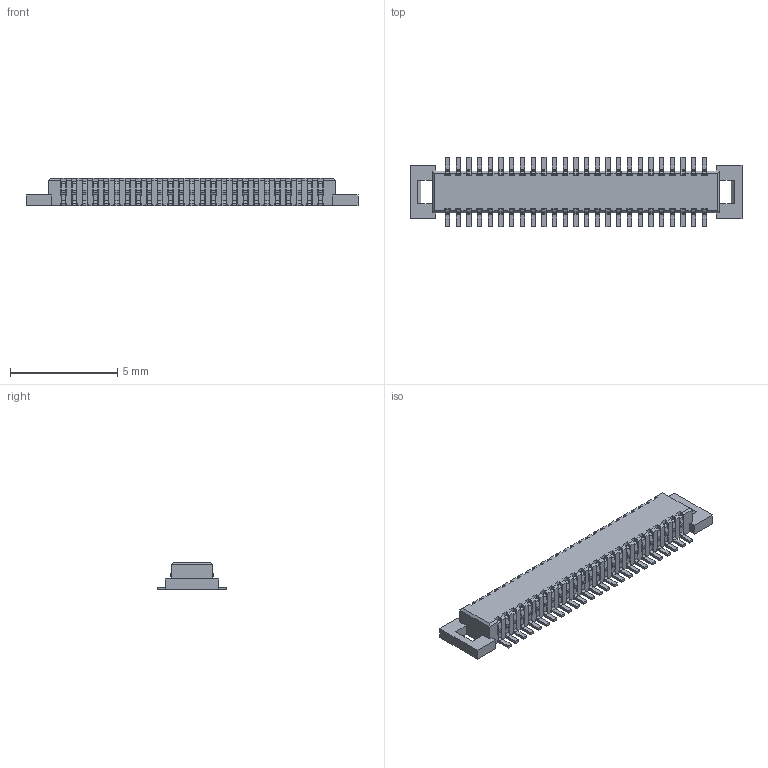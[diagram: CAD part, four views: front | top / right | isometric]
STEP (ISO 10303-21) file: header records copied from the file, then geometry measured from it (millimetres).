
FILE_DESCRIPTION(('CATIA V5 STEP Exchange'),'2;1');
FILE_NAME('F:\黄富鸿\板对板\0.5 单槽\无柱\公座\H1.28\HC-PBB05-1-50-M-H1.28-G1-R-06 (BTB0.5 单槽 公座 立贴 编带)-HCTL.stp','2026-01-20T07:09:33+00:00',('none'),('none'),'CATIA Version 5 Release 20 GA (IN-10)','CATIA V5 STEP AP203','none');
FILE_SCHEMA(('CONFIG_CONTROL_DESIGN'));
Products named in the file (1): Part1
Bounding box: 15.5 x 3.24 x 1.28 mm (x, y, z)
Volume: 33.9 mm3; surface area: 321.5 mm2
Topology: 51 solids, 51 shells, 2580 faces, 7436 edges, 4956 vertices
Faces by surface type: plane 2080, cylinder 500
Entity records: 77304 total; most frequent: ORIENTED_EDGE 14872, CARTESIAN_POINT 13887, DIRECTION 10412, EDGE_CURVE 7436, VECTOR 6432, LINE 6432, VERTEX_POINT 4956, EDGE_LOOP 2582
